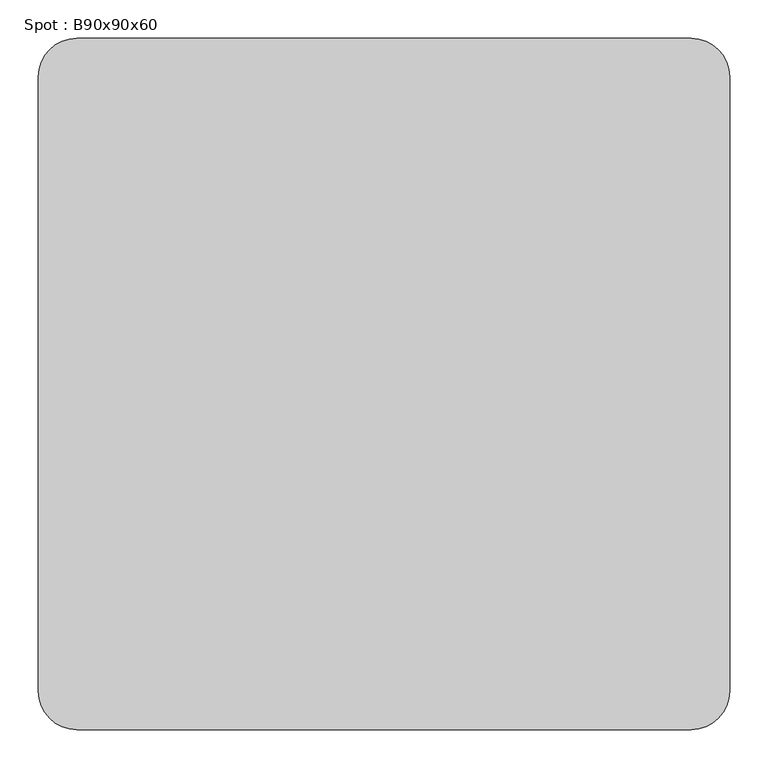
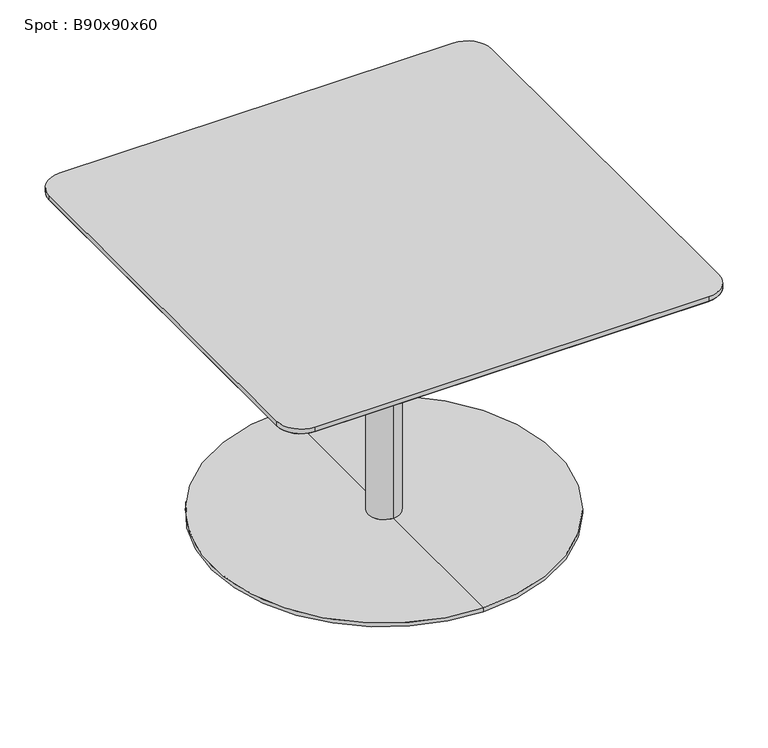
"""IFC4 building model written with IfcOpenShell, lengths in millimetres: furniture geometry, Spot : B90x90x60."""

from ifc_helpers import new_model, si_unit, point, frame, frame_2d, origin, place, context, project, spatial, polyline, circle_curve, trimmed, segment, composite_curve, outline, extrude, source, transform, mapped, element, save
from ifc_brep_helpers import plane_surface, cylinder_surface, revolved_surface, advanced_brep


def spot_b90x90x60_5a79fd71(model_context):
    return source(origin(), model_context, "Body", "SolidModel", [
        advanced_brep(
        [(-400.0, -400.0, 578.0), (-400.0, 400.0, 578.0), (400.0, 400.0, 578.0), (400.0, -400.0, 578.0), (-450.0, -400.0, 590.0), (-400.0, -450.0, 590.0), (400.0, -450.0, 590.0), (450.0, -400.0, 590.0), (450.0, 400.0, 590.0), (400.0, 450.0, 590.0), (-400.0, 450.0, 590.0), (-450.0, 400.0, 590.0)],
        [
            (0, 1),
            (1, 2),
            (2, 3),
            (3, 0),
            (4, 5, circle_curve(frame((-400.0, -400.0, 590.0), z_axis=(0.0, 0.0, 1.0), x_axis=(0.0, -1.0, 0.0)), 50.0)),
            (5, 6),
            (6, 7, circle_curve(frame((400.0, -400.0, 590.0), z_axis=(0.0, 0.0, 1.0), x_axis=(1.0, 0.0, 0.0)), 50.0)),
            (7, 8),
            (8, 9, circle_curve(frame((400.0, 400.0, 590.0), z_axis=(0.0, 0.0, 1.0), x_axis=(0.0, 1.0, 0.0)), 50.0)),
            (9, 10),
            (10, 11, circle_curve(frame((-400.0, 400.0, 590.0), z_axis=(0.0, 0.0, 1.0), x_axis=(-1.0, 0.0, 0.0)), 50.0)),
            (11, 4),
            (4, 0),
            (0, 5),
            (3, 6),
            (3, 7),
            (2, 8),
            (2, 9),
            (1, 10),
            (1, 11),
        ],
        [
            plane_surface(frame((0.0, 0.0, 578.0), z_axis=(0.0, 0.0, -1.0), x_axis=(-1.0, 0.0, 0.0))),
            plane_surface(frame((0.0, 0.0, 590.0), z_axis=(0.0, 0.0, 1.0), x_axis=(-1.0, 0.0, 0.0))),
            revolved_surface(polyline([(-400.0, -400.0, 578.0), (-400.0, -450.0, 590.0)]), (-400.0, -400.0, 578.0), (0.0, 0.0, 1.0)),
            plane_surface(frame((0.0, -450.0, 590.0), z_axis=(0.0, -0.23337295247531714, -0.9723873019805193), x_axis=(-1.0, 0.0, 0.0))),
            revolved_surface(polyline([(400.0, -400.0, 578.0), (450.0, -400.0, 590.0)]), (400.0, -400.0, 578.0), (0.0, 0.0, 1.0)),
            plane_surface(frame((450.0, 0.0, 590.0), z_axis=(0.23337295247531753, 0.0, -0.9723873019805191), x_axis=(0.0, -1.0, 0.0))),
            revolved_surface(polyline([(400.0, 400.0, 578.0), (400.0, 450.0, 590.0)]), (400.0, 400.0, 578.0), (0.0, 0.0, 1.0)),
            plane_surface(frame((0.0, 450.0, 590.0), z_axis=(0.0, 0.23337295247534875, -0.9723873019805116), x_axis=(1.0, 0.0, 0.0))),
            revolved_surface(polyline([(-400.0, 400.0, 578.0), (-450.0, 400.0, 590.0)]), (-400.0, 400.0, 578.0), (0.0, 0.0, 1.0)),
            plane_surface(frame((-450.0, 0.0, 590.0), z_axis=(-0.2333729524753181, 0.0, -0.9723873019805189), x_axis=(0.0, 1.0, 0.0))),
        ],
        [
            (0, [[1, 2, 3, 4]]),
            (1, [[5, 6, 7, 8, 9, 10, 11, 12]]),
            (2, [[-5, 13, 14]]),
            (3, [[-6, -14, -4, 15]]),
            (4, [[-7, -15, 16]]),
            (5, [[-8, -16, -3, 17]]),
            (6, [[-9, -17, 18]]),
            (7, [[-10, -18, -2, 19]]),
            (8, [[-11, -19, 20]]),
            (9, [[-12, -20, -1, -13]]),
        ],
    ),
        extrude(outline(composite_curve([segment(trimmed(circle_curve(frame_2d((400.0, 400.0)), 50.0), [point((400.0, 450.0))], [point((450.0, 400.0))], False, "CARTESIAN"), True, "CONTINUOUS"), segment(polyline([(450.0, 400.0), (450.0, -400.0)]), True, "CONTINUOUS"), segment(trimmed(circle_curve(frame_2d((400.0, -400.0)), 50.0), [point((450.0, -400.0))], [point((400.0, -450.0))], False, "CARTESIAN"), True, "CONTINUOUS"), segment(polyline([(400.0, -450.0), (-400.0, -450.0)]), True, "CONTINUOUS"), segment(trimmed(circle_curve(frame_2d((-400.0, -400.0)), 50.0), [point((-400.0, -450.0))], [point((-450.0, -400.0))], False, "CARTESIAN"), True, "CONTINUOUS"), segment(polyline([(-450.0, -400.0), (-450.0, 400.0)]), True, "CONTINUOUS"), segment(trimmed(circle_curve(frame_2d((-400.0, 400.0)), 50.0), [point((-450.0, 400.0))], [point((-400.0, 450.0))], False, "CARTESIAN"), True, "CONTINUOUS"), segment(polyline([(-400.0, 450.0), (400.0, 450.0)]), True, "CONTINUOUS")], self_intersect=False)), frame((0.0, 0.0, 590.0), z_axis=(0.0, 0.0, 1.0), x_axis=(1.0, 0.0, 0.0)), (0.0, 0.0, 1.0), 10.0),
        advanced_brep(
        [(0.0, 32.0, 10.0), (0.0, -32.0, 10.0), (0.0, -32.0, 547.406916), (0.0, 32.0, 547.406916), (0.0, 350.0, 10.0), (0.0, -350.0, 10.0), (0.0, 350.0, 2.0), (0.0, -350.0, 2.0), (0.0, 0.0, 2.0), (0.0, 150.0, 578.0), (0.0, -150.0, 578.0), (0.0, 0.0, 578.0), (0.0, 150.0, 566.7213673), (0.0, -150.0, 566.7213673)],
        [
            (0, 1, circle_curve(frame((0.0, 0.0, 10.0), z_axis=(0.0, 0.0, 1.0), x_axis=(0.0, -1.0, 0.0)), 32.0)),
            (1, 2),
            (2, 3, circle_curve(frame((0.0, 0.0, 547.406916), z_axis=(0.0, 0.0, -1.0), x_axis=(0.0, -1.0, 0.0)), 32.0)),
            (3, 0),
            (1, 0, circle_curve(frame((0.0, 0.0, 10.0), z_axis=(0.0, 0.0, 1.0), x_axis=(0.0, -1.0, 0.0)), 32.0)),
            (3, 2, circle_curve(frame((0.0, 0.0, 547.406916), z_axis=(0.0, 0.0, -1.0), x_axis=(0.0, -1.0, 0.0)), 32.0)),
            (4, 5, circle_curve(frame((0.0, 0.0, 10.0), z_axis=(0.0, 0.0, 1.0), x_axis=(0.0, -1.0, 0.0)), 350.0)),
            (5, 1),
            (0, 4),
            (5, 4, circle_curve(frame((0.0, 0.0, 10.0), z_axis=(0.0, 0.0, 1.0), x_axis=(0.0, -1.0, 0.0)), 350.0)),
            (6, 7, circle_curve(frame((0.0, 0.0, 2.0), z_axis=(0.0, 0.0, 1.0), x_axis=(0.0, -1.0, 0.0)), 350.0)),
            (7, 5),
            (4, 6),
            (7, 6, circle_curve(frame((0.0, 0.0, 2.0), z_axis=(0.0, 0.0, 1.0), x_axis=(0.0, -1.0, 0.0)), 350.0)),
            (8, 7),
            (6, 8),
            (9, 10, circle_curve(frame((0.0, 0.0, 578.0), z_axis=(0.0, 0.0, 1.0), x_axis=(0.0, -1.0, 0.0)), 150.0)),
            (10, 11),
            (11, 9),
            (10, 9, circle_curve(frame((0.0, 0.0, 578.0), z_axis=(0.0, 0.0, 1.0), x_axis=(0.0, -1.0, 0.0)), 150.0)),
            (12, 13, circle_curve(frame((0.0, 0.0, 566.7213673), z_axis=(0.0, 0.0, 1.0), x_axis=(0.0, -1.0, 0.0)), 150.0)),
            (13, 10),
            (9, 12),
            (13, 12, circle_curve(frame((0.0, 0.0, 566.7213673), z_axis=(0.0, 0.0, 1.0), x_axis=(0.0, -1.0, 0.0)), 150.0)),
            (2, 13),
            (12, 3),
        ],
        [
            cylinder_surface(frame((0.0, 0.0, 940.0), z_axis=(0.0, 0.0, -1.0), x_axis=(0.0, -1.0, 0.0)), 32.0),
            plane_surface(frame((0.0, 0.0, 10.0), z_axis=(0.0, 0.0, 1.0), x_axis=(0.0, -1.0, 0.0))),
            cylinder_surface(frame((0.0, 0.0, 940.0), z_axis=(0.0, 0.0, -1.0), x_axis=(0.0, -1.0, 0.0)), 350.0),
            plane_surface(frame((0.0, 0.0, 2.0), z_axis=(0.0, 0.0, -1.0), x_axis=(0.0, -1.0, 0.0))),
            plane_surface(frame((0.0, 0.0, 578.0), z_axis=(0.0, 0.0, 1.0), x_axis=(0.0, -1.0, 0.0))),
            cylinder_surface(frame((0.0, 0.0, 940.0), z_axis=(0.0, 0.0, -1.0), x_axis=(0.0, -1.0, 0.0)), 150.0),
            revolved_surface(polyline([(0.0, -150.0, 566.7213673), (0.0, -32.0, 547.406916)]), (0.0, 0.0, 940.0), (0.0, 0.0, -1.0)),
        ],
        [
            (0, [[1, 2, 3, 4]]),
            (0, [[5, -4, 6, -2]]),
            (1, [[7, 8, -1, 9]]),
            (1, [[10, -9, -5, -8]]),
            (2, [[11, 12, -7, 13]]),
            (2, [[14, -13, -10, -12]]),
            (3, [[15, -11, 16]]),
            (3, [[-16, -14, -15]]),
            (4, [[17, 18, 19]]),
            (4, [[20, -19, -18]]),
            (5, [[21, 22, -17, 23]]),
            (5, [[24, -23, -20, -22]]),
            (6, [[-3, 25, -21, 26]]),
            (6, [[-6, -26, -24, -25]]),
        ],
    ),
    ])


if __name__ == "__main__":
    model = new_model("IFC4")
    model_context = context("Model", 3, world=origin())
    ifc_project = project(units=[si_unit("LENGTHUNIT", "METRE", prefix="MILLI")], contexts=[model_context])
    site = spatial("IfcSite", under=ifc_project)
    building = spatial("IfcBuilding", under=site)
    placement = place(None, origin())
    spot_b90x90x60_shape = spot_b90x90x60_5a79fd71(model_context)
    element("IfcFurniture", 1, ObjectType="Spot : B90x90x60", at=placement, inside=building, context=model_context, shape_type="MappedRepresentation", body=[
        mapped(spot_b90x90x60_shape, transform((0.0, 0.0, 0.0), x_axis=(1.0, 0.0, 0.0), y_axis=(0.0, 1.0, 0.0), z_axis=(0.0, 0.0, 1.0))),
    ])
    save(model, "model.ifc")
